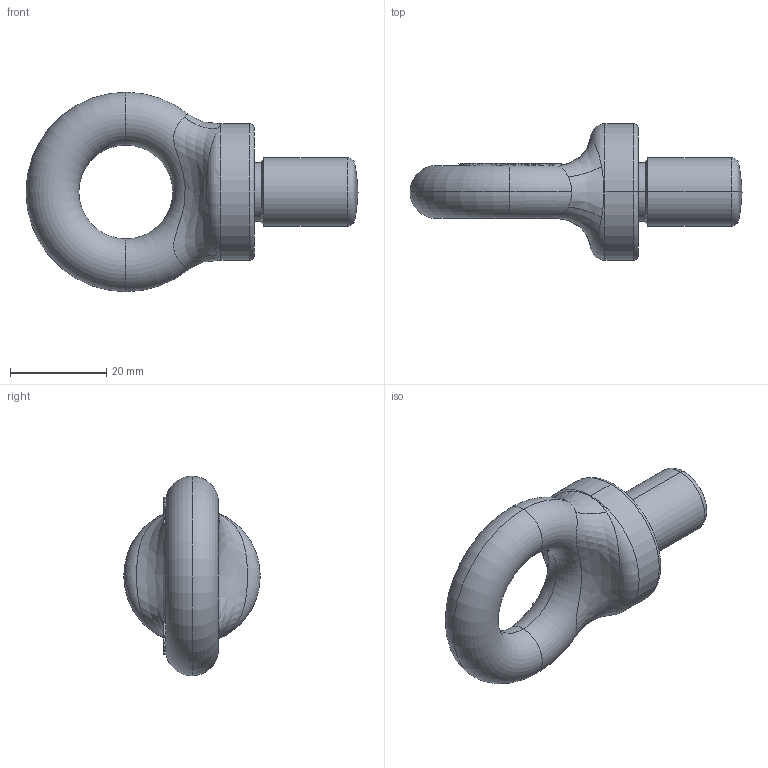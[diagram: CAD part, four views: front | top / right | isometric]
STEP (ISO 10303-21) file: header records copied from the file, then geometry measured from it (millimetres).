
FILE_DESCRIPTION (( 'STEP AP203' ), '1' );
FILE_NAME ('EBB500.STEP', '2010-01-11T00:33:58', ( ' ' ), ( ' ' ), 'SwSTEP 2.0', 'SolidWorks 2003240', '' );
FILE_SCHEMA (( 'CONFIG_CONTROL_DESIGN' ));
Length unit declared in the file: millimetre
Products named in the file (1): EBB500
Bounding box: 69.05 x 28.38 x 41.5 mm (x, y, z)
Volume: 18579.2 mm3; surface area: 5733.2 mm2
Topology: 1 solids, 1 shells, 211 faces, 566 edges, 371 vertices
Faces by surface type: plane 129, bspline 39, torus 35, cylinder 6, cone 2
Entity records: 19452 total; most frequent: CARTESIAN_POINT 14877, ORIENTED_EDGE 1128, DIRECTION 601, EDGE_CURVE 564, VERTEX_POINT 371, B_SPLINE_CURVE_WITH_KNOTS 351, EDGE_LOOP 229, AXIS2_PLACEMENT_3D 215
